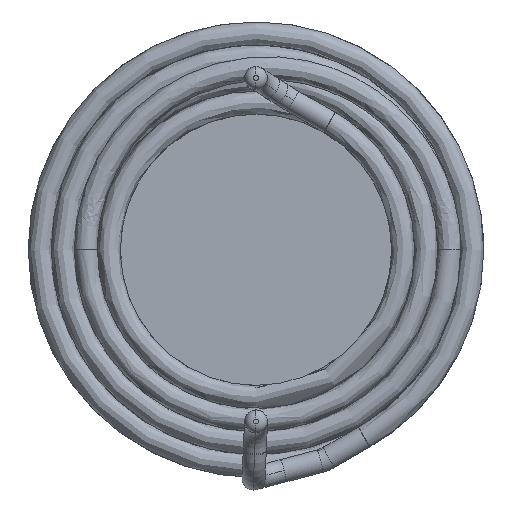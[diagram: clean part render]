
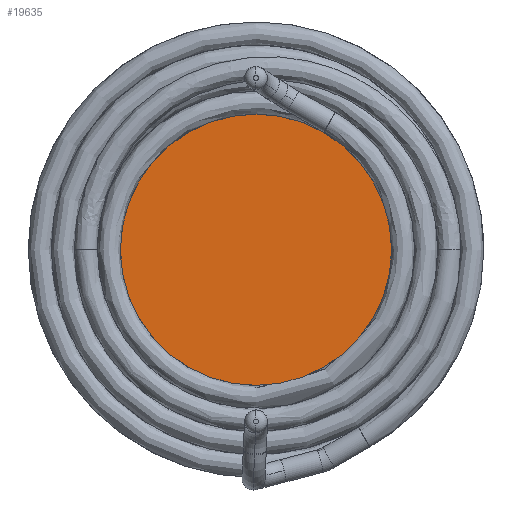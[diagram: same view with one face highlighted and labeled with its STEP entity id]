
A CAD part, front view. The second image highlights one B-rep face of the part: STEP entity #19635.
In plain terms, the highlighted planar face has unit normal (0, -1, 0).
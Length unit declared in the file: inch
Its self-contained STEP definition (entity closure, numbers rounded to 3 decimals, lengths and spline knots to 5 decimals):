
#737 = EDGE_CURVE ( 'NONE', #12765, #15769, #2994, .T. ) ;
#2300 = DIRECTION ( 'NONE',  ( 0., 0., 1. ) ) ;
#2994 = CIRCLE ( 'NONE', #13227, 0.11811 ) ;
#3709 = ORIENTED_EDGE ( 'NONE', *, *, #4957, .F. ) ;
#4176 = DIRECTION ( 'NONE',  ( 0., 1., 0. ) ) ;
#4957 = EDGE_CURVE ( 'NONE', #15769, #12765, #16272, .T. ) ;
#7244 = AXIS2_PLACEMENT_3D ( 'NONE', #20368, #21164, #2300 ) ;
#8462 = DIRECTION ( 'NONE',  ( 0., 1., 0. ) ) ;
#11332 = FACE_OUTER_BOUND ( 'NONE', #13624, .T. ) ;
#11567 = ORIENTED_EDGE ( 'NONE', *, *, #737, .F. ) ;
#11646 = CARTESIAN_POINT ( 'NONE',  ( 0., 0., 0. ) ) ;
#12765 = VERTEX_POINT ( 'NONE', #21957 ) ;
#13227 = AXIS2_PLACEMENT_3D ( 'NONE', #11646, #4176, #14797 ) ;
#13624 = EDGE_LOOP ( 'NONE', ( #11567, #3709 ) ) ;
#14797 = DIRECTION ( 'NONE',  ( 0., 0., 1. ) ) ;
#15769 = VERTEX_POINT ( 'NONE', #22844 ) ;
#16272 = CIRCLE ( 'NONE', #23919, 0.11811 ) ;
#17102 = CARTESIAN_POINT ( 'NONE',  ( 0., 0., 0. ) ) ;
#17216 = PLANE ( 'NONE',  #7244 ) ;
#19635 = ADVANCED_FACE ( 'NONE', ( #11332 ), #17216, .F. ) ;
#20368 = CARTESIAN_POINT ( 'NONE',  ( 0., 0., 0. ) ) ;
#21164 = DIRECTION ( 'NONE',  ( 0., 1., 0. ) ) ;
#21957 = CARTESIAN_POINT ( 'NONE',  ( 0., 0., -0.11811 ) ) ;
#22844 = CARTESIAN_POINT ( 'NONE',  ( 0., 0., 0.11811 ) ) ;
#23796 = DIRECTION ( 'NONE',  ( 0., 0., 1. ) ) ;
#23919 = AXIS2_PLACEMENT_3D ( 'NONE', #17102, #8462, #23796 ) ;
